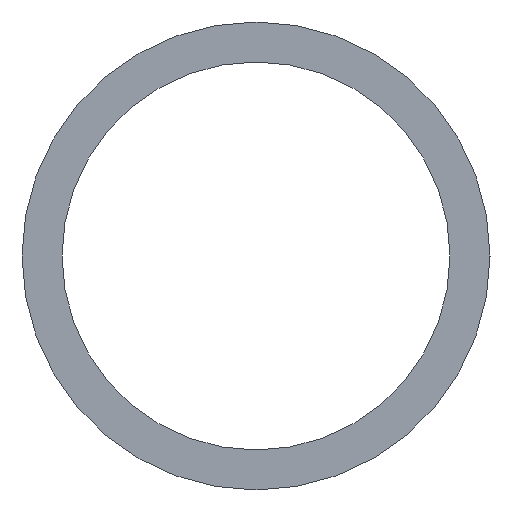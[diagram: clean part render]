
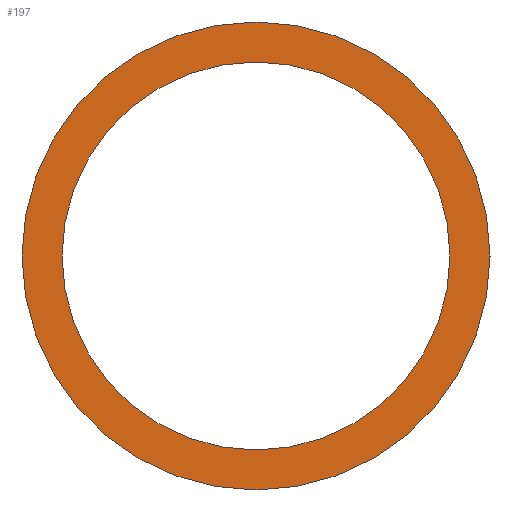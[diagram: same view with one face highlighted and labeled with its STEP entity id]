
A CAD part, left-side view. The second image highlights one B-rep face of the part: STEP entity #197.
In plain terms, the highlighted planar face has unit normal (-1, 0, 0).
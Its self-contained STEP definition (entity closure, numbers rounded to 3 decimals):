
#16 = CARTESIAN_POINT ( 'NONE',  ( 6085., 3775., 2982.4 ) ) ;
#17 = DIRECTION ( 'NONE',  ( 0., 0., -1. ) ) ;
#19 = AXIS2_PLACEMENT_3D ( 'NONE', #30, #92, #17 ) ;
#21 = EDGE_LOOP ( 'NONE', ( #48, #90 ) ) ;
#23 = VERTEX_POINT ( 'NONE', #69 ) ;
#25 = EDGE_LOOP ( 'NONE', ( #138, #116 ) ) ;
#27 = EDGE_CURVE ( 'NONE', #70, #107, #32, .T. ) ;
#30 = CARTESIAN_POINT ( 'NONE',  ( 6085., 3775., 2995.85 ) ) ;
#32 = CIRCLE ( 'NONE', #106, 13.45 ) ;
#35 = CARTESIAN_POINT ( 'NONE',  ( 6085., 3775., 2995.85 ) ) ;
#37 = CARTESIAN_POINT ( 'NONE',  ( 6085., 3775., 2995.85 ) ) ;
#42 = DIRECTION ( 'NONE',  ( 0., 0., -1. ) ) ;
#47 = DIRECTION ( 'NONE',  ( 1., 0., 0. ) ) ;
#48 = ORIENTED_EDGE ( 'NONE', *, *, #27, .F. ) ;
#53 = DIRECTION ( 'NONE',  ( 0., 0., -1. ) ) ;
#54 = DIRECTION ( 'NONE',  ( 1., 0., 0. ) ) ;
#56 = EDGE_CURVE ( 'NONE', #107, #70, #177, .T. ) ;
#59 = DIRECTION ( 'NONE',  ( 0., 0., -1. ) ) ;
#62 = DIRECTION ( 'NONE',  ( 1., 0., 0. ) ) ;
#69 = CARTESIAN_POINT ( 'NONE',  ( 6085., 3775., 3007. ) ) ;
#70 = VERTEX_POINT ( 'NONE', #122 ) ;
#77 = CARTESIAN_POINT ( 'NONE',  ( 6085., 3775., 2995.85 ) ) ;
#90 = ORIENTED_EDGE ( 'NONE', *, *, #56, .F. ) ;
#92 = DIRECTION ( 'NONE',  ( 1., 0., 0. ) ) ;
#93 = DIRECTION ( 'NONE',  ( 0., 0., -1. ) ) ;
#94 = CIRCLE ( 'NONE', #114, 11.15 ) ;
#101 = AXIS2_PLACEMENT_3D ( 'NONE', #37, #54, #42 ) ;
#106 = AXIS2_PLACEMENT_3D ( 'NONE', #35, #143, #53 ) ;
#107 = VERTEX_POINT ( 'NONE', #16 ) ;
#114 = AXIS2_PLACEMENT_3D ( 'NONE', #77, #47, #59 ) ;
#116 = ORIENTED_EDGE ( 'NONE', *, *, #140, .T. ) ;
#122 = CARTESIAN_POINT ( 'NONE',  ( 6085., 3775., 3009.3 ) ) ;
#131 = CARTESIAN_POINT ( 'NONE',  ( 6085., 3775., 2984.7 ) ) ;
#132 = AXIS2_PLACEMENT_3D ( 'NONE', #179, #62, #93 ) ;
#136 = EDGE_CURVE ( 'NONE', #23, #171, #94, .T. ) ;
#138 = ORIENTED_EDGE ( 'NONE', *, *, #136, .T. ) ;
#139 = CIRCLE ( 'NONE', #132, 11.15 ) ;
#140 = EDGE_CURVE ( 'NONE', #171, #23, #139, .T. ) ;
#143 = DIRECTION ( 'NONE',  ( 1., 0., 0. ) ) ;
#147 = FACE_BOUND ( 'NONE', #25, .T. ) ;
#148 = FACE_OUTER_BOUND ( 'NONE', #21, .T. ) ;
#171 = VERTEX_POINT ( 'NONE', #131 ) ;
#177 = CIRCLE ( 'NONE', #101, 13.45 ) ;
#179 = CARTESIAN_POINT ( 'NONE',  ( 6085., 3775., 2995.85 ) ) ;
#197 = ADVANCED_FACE ( 'NONE', ( #148, #147 ), #198, .F. ) ;
#198 = PLANE ( 'NONE',  #19 ) ;
